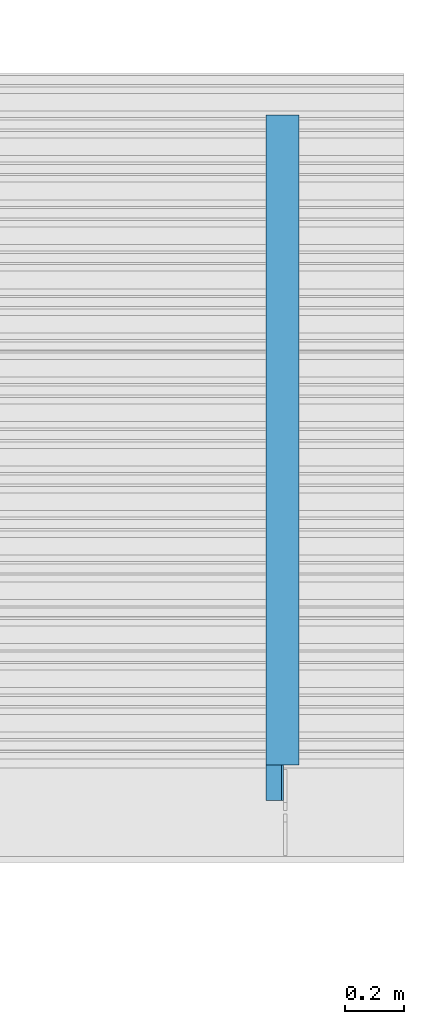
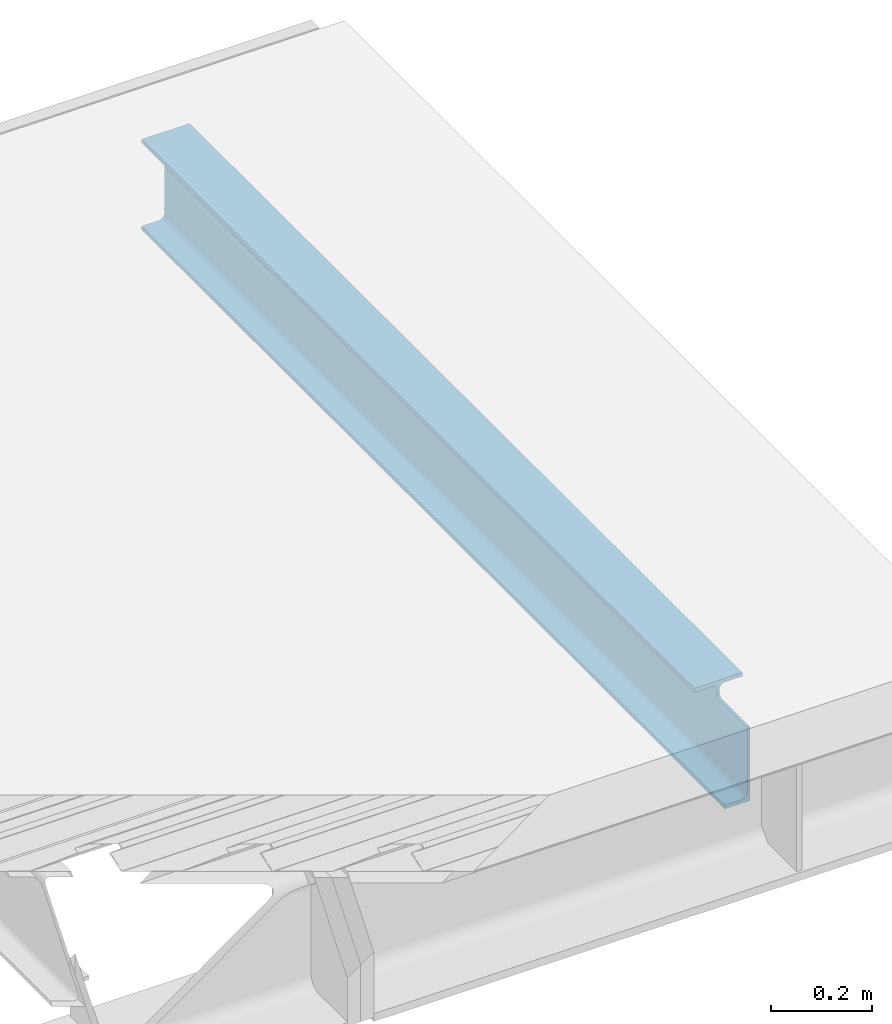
# One storey, part 12 of 12: 1 beam.
"""IFC2X3 building model written with IfcOpenShell, lengths in millimetres."""

from ifc_helpers import new_model, entity, si_unit, converted_unit, derived_unit, direction, frame, origin_with_axes, place, context, subcontext, project, spatial, faceted_brep, type_object, element, save


model = new_model("IFC2X3")

# Units and contexts
model_context = context("Model", 3, precision=0.01, world=frame((0.0, 4.29681676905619e-09, 0.0)), true_north=direction((4.01073788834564e-13, 1.0)))
plan_context = context("Plan", 3, precision=0.01, world=frame((0.0, 4.29681676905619e-09, 0.0)), true_north=direction((4.01073788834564e-13, 1.0)))
body_context = subcontext(model_context, "Body", "Model", "MODEL_VIEW")
ifc_project = project(units=[converted_unit("PLANEANGLEUNIT", "DEGREE", entity("IfcPositiveLengthMeasure", 0.0174532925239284), si_unit("PLANEANGLEUNIT", "RADIAN"), dimensions=[0, 0, 0, 0, 0, 0, 0]), si_unit("AREAUNIT", "SQUARE_METRE"), si_unit("LENGTHUNIT", "METRE", prefix="MILLI"), si_unit("MASSUNIT", "GRAM", prefix="KILO"), si_unit("POWERUNIT", "WATT"), si_unit("PRESSUREUNIT", "PASCAL"), si_unit("FORCEUNIT", "NEWTON", prefix="KILO"), si_unit("ELECTRICVOLTAGEUNIT", "VOLT"), si_unit("ELECTRICCURRENTUNIT", "AMPERE"), si_unit("THERMODYNAMICTEMPERATUREUNIT", "DEGREE_CELSIUS"), si_unit("TIMEUNIT", "SECOND"), si_unit("VOLUMEUNIT", "CUBIC_METRE"), derived_unit("LINEARVELOCITYUNIT", [(si_unit("LENGTHUNIT", "METRE"), 1), (si_unit("TIMEUNIT", "SECOND"), -1)]), derived_unit("VOLUMETRICFLOWRATEUNIT", [(si_unit("VOLUMEUNIT", "CUBIC_METRE"), 1), (si_unit("TIMEUNIT", "SECOND"), -1)]), derived_unit("THERMALTRANSMITTANCEUNIT", [(si_unit("POWERUNIT", "WATT"), 1), (si_unit("THERMODYNAMICTEMPERATUREUNIT", "KELVIN"), -1), (si_unit("AREAUNIT", "SQUARE_METRE"), -1)]), derived_unit("SOUNDPRESSUREUNIT", [(si_unit("PRESSUREUNIT", "PASCAL"), 1)])], contexts=[model_context, plan_context])

# Site, building, storey
site_placement = place(None, frame((0.0, -4.29681676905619e-09, 0.0), z_axis=(0.0, 0.0, 1.0), x_axis=(1.0, 0.0, 0.0)))
site = spatial("IfcSite", under=ifc_project, at=site_placement, Name="Gardermoen", CompositionType="ELEMENT")
building_placement = place(site_placement, frame((0.0, 4.29681676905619e-09, 0.0), z_axis=(0.0, 0.0, 1.0), x_axis=(1.0, 0.0, 0.0)))
building = spatial("IfcBuilding", under=site, at=building_placement, Name="TH", CompositionType="ELEMENT")
storey_placement = place(building_placement, origin_with_axes())
storey = spatial("IfcBuildingStorey", under=building, at=storey_placement, Name="D", CompositionType="ELEMENT", Elevation=0.0)

# Beam
beam_type = type_object("IfcBeamType", Name="IPE220", PredefinedType="NOTDEFINED")
beam_placement = place(storey_placement, frame((909999.999781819, 484999.995625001, 209930.0), z_axis=(0.0, 0.0, 1.0), x_axis=(0.0, 1.0, 0.0)))
element("IfcBeam", 1, at=beam_placement, inside=storey, type_object=beam_type, Name="STÅLBJELKE", ObjectType="IPE220", context=body_context, shape_type="Brep", body=[
    faceted_brep([(2357.65437500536, -55.0, -110.0), (2357.65437500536, 55.0, -110.0), (39.9999999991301, 55.0, -110.0), (39.9999999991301, -2.95000004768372, -110.0), (159.99999999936, -2.95000004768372, -110.0), (159.99999999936, -55.0, -110.0), (2357.65437500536, -55.0, -100.800000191), (159.99999999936, -55.0, -100.800000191), (2357.65437500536, -14.9500000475, -100.800000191), (159.99999999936, -14.9500000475, -100.800000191), (2357.65437500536, -12.6089161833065, -100.569423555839), (159.99999999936, -12.6089161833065, -100.569423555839), (2357.65437500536, -10.3577988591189, -99.8865545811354), (159.99999999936, -10.3577988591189, -99.8865545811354), (2357.65437500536, -8.28315725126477, -98.7776355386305), (159.99999999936, -8.28315725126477, -98.7776355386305), (2357.65437500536, -6.46471867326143, -97.2852815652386), (159.99999999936, -6.46471867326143, -97.2852815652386), (2357.65437500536, -4.97236469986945, -95.4668429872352), (159.99999999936, -4.97236469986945, -95.4668429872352), (2357.65437500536, -3.86344565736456, -93.3922013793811), (159.99999999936, -3.86344565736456, -93.3922013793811), (2357.65437500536, -3.18057668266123, -91.1410840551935), (159.99999999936, -3.18057668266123, -91.1410840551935), (2357.65437500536, -2.9500000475, -88.800000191), (159.99999999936, -2.96969830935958, -89.0), (39.9999999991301, -2.96969830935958, -89.0), (39.9999999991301, -2.9500000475, -88.800000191), (2357.65437500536, -2.9500000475, 88.800000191), (39.9999999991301, -2.9500000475, 70.0), (149.999999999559, -2.9500000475, 69.9999999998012), (151.564344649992, -2.9500000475, 70.1231165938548), (153.090169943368, -2.9500000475, 70.4894348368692), (154.539904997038, -2.9500000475, 71.0899347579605), (155.877852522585, -2.9500000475, 71.9098300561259), (157.071067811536, -2.9500000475, 72.9289321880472), (158.090169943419, -2.9500000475, 74.1221474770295), (158.910065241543, -2.9500000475, 75.4600950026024), (159.510565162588, -2.9500000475, 76.9098300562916), (159.876883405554, -2.9500000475, 78.4356553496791), (159.999999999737, -2.9500000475, 79.999999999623), (159.999999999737, -2.9500000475, 88.800000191), (2357.65437500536, -3.18057668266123, 91.1410840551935), (159.999999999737, -3.18057668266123, 91.1410840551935), (2357.65437500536, -3.86344565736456, 93.3922013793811), (159.999999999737, -3.86344565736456, 93.3922013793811), (2357.65437500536, -4.97236469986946, 95.4668429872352), (159.999999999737, -4.97236469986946, 95.4668429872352), (2357.65437500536, -6.46471867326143, 97.2852815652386), (159.999999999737, -6.46471867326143, 97.2852815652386), (2357.65437500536, -8.28315725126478, 98.7776355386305), (159.999999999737, -8.28315725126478, 98.7776355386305), (2357.65437500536, -10.3577988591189, 99.8865545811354), (159.999999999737, -10.3577988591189, 99.8865545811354), (2357.65437500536, -12.6089161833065, 100.569423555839), (159.999999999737, -12.6089161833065, 100.569423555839), (2357.65437500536, -14.9500000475, 100.800000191), (159.999999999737, -14.9500000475, 100.800000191), (2357.65437500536, -55.0, 100.800000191), (159.999999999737, -55.0, 100.800000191), (2357.65437500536, -55.0, 110.0), (159.999999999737, -55.0, 110.0), (2357.65437500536, 55.0, 110.0), (159.999999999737, 55.0, 110.0), (2357.65437500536, 55.0, 100.800000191), (159.999999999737, 55.0, 100.800000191), (2357.65437500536, 14.9500000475, 100.800000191), (159.999999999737, 14.9500000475, 100.800000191), (2357.65437500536, 12.6089161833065, 100.569423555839), (159.999999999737, 12.6089161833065, 100.569423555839), (2357.65437500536, 10.3577988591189, 99.8865545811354), (159.999999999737, 10.3577988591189, 99.8865545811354), (2357.65437500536, 8.28315725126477, 98.7776355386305), (159.999999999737, 8.28315725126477, 98.7776355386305), (2357.65437500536, 6.46471867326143, 97.2852815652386), (159.999999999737, 6.46471867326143, 97.2852815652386), (2357.65437500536, 4.97236469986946, 95.4668429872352), (159.999999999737, 4.97236469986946, 95.4668429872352), (2357.65437500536, 3.86344565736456, 93.3922013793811), (159.999999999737, 3.86344565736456, 93.3922013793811), (2357.65437500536, 3.18057668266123, 91.1410840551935), (159.999999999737, 3.18057668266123, 91.1410840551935), (2357.65437500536, 2.9500000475, 88.800000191), (159.999999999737, 2.9500000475, 88.800000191), (2357.65437500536, 2.9500000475, -88.800000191), (159.999999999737, 2.95000004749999, 79.999999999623), (159.876883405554, 2.95000004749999, 78.4356553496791), (159.510565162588, 2.95000004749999, 76.9098300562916), (158.910065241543, 2.95000004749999, 75.4600950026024), (158.090169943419, 2.95000004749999, 74.1221474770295), (157.071067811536, 2.95000004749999, 72.9289321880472), (155.877852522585, 2.95000004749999, 71.9098300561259), (154.539904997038, 2.95000004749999, 71.0899347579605), (153.090169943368, 2.95000004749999, 70.4894348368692), (151.564344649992, 2.95000004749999, 70.1231165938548), (149.999999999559, 2.95000004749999, 69.9999999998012), (39.9999999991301, 2.9500000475, 70.0), (39.9999999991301, 2.9500000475, -88.800000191), (2357.65437500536, 3.18057668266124, -91.1410840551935), (39.9999999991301, 3.18057668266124, -91.1410840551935), (2357.65437500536, 3.86344565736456, -93.3922013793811), (39.9999999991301, 3.86344565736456, -93.3922013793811), (2357.65437500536, 4.97236469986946, -95.4668429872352), (39.9999999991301, 4.97236469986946, -95.4668429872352), (2357.65437500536, 6.46471867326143, -97.2852815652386), (39.9999999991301, 6.46471867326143, -97.2852815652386), (2357.65437500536, 8.28315725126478, -98.7776355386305), (39.9999999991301, 8.28315725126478, -98.7776355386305), (2357.65437500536, 10.3577988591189, -99.8865545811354), (39.9999999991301, 10.3577988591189, -99.8865545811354), (2357.65437500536, 12.6089161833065, -100.569423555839), (39.9999999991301, 12.6089161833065, -100.569423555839), (2357.65437500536, 14.9500000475, -100.800000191), (39.9999999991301, 14.9500000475, -100.800000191), (2357.65437500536, 55.0, -100.800000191), (39.9999999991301, 55.0, -100.800000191), (159.99999999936, -2.95000004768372, -89.0), (39.9999999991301, -2.95000004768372, -89.0)], [[[0, 1, 2, 3, 4, 5]], [[6, 0, 5, 7]], [[8, 6, 7, 9]], [[10, 8, 9, 11]], [[12, 10, 11, 13]], [[14, 12, 13, 15]], [[16, 14, 15, 17]], [[18, 16, 17, 19]], [[20, 18, 19, 21]], [[22, 20, 21, 23]], [[24, 22, 23, 25, 26, 27]], [[28, 24, 27, 29, 30, 31, 32, 33, 34, 35, 36, 37, 38, 39, 40, 41]], [[42, 28, 41, 43]], [[44, 42, 43, 45]], [[46, 44, 45, 47]], [[48, 46, 47, 49]], [[50, 48, 49, 51]], [[52, 50, 51, 53]], [[54, 52, 53, 55]], [[56, 54, 55, 57]], [[58, 56, 57, 59]], [[60, 58, 59, 61]], [[62, 60, 61, 63]], [[64, 62, 63, 65]], [[66, 64, 65, 67]], [[68, 66, 67, 69]], [[70, 68, 69, 71]], [[72, 70, 71, 73]], [[74, 72, 73, 75]], [[76, 74, 75, 77]], [[78, 76, 77, 79]], [[80, 78, 79, 81]], [[82, 80, 81, 83]], [[84, 82, 83, 85, 86, 87, 88, 89, 90, 91, 92, 93, 94, 95, 96, 97]], [[98, 84, 97, 99]], [[100, 98, 99, 101]], [[102, 100, 101, 103]], [[104, 102, 103, 105]], [[106, 104, 105, 107]], [[108, 106, 107, 109]], [[110, 108, 109, 111]], [[112, 110, 111, 113]], [[114, 112, 113, 115]], [[1, 114, 115, 2]], [[30, 29, 96, 95]], [[95, 94, 31, 30]], [[94, 93, 32, 31]], [[93, 92, 33, 32]], [[92, 91, 34, 33]], [[91, 90, 35, 34]], [[90, 89, 36, 35]], [[89, 88, 37, 36]], [[88, 87, 38, 37]], [[87, 86, 39, 38]], [[86, 85, 40, 39]], [[85, 83, 81, 79, 77, 75, 73, 71, 69, 67, 65, 63, 61, 59, 57, 55, 53, 51, 49, 47, 45, 43, 41, 40]], [[116, 25, 23, 21, 19, 17, 15, 13, 11, 9, 7, 5, 4]], [[116, 117, 26, 25]], [[116, 4, 3, 117]], [[96, 29, 27, 26, 117, 3, 2, 115, 113, 111, 109, 107, 105, 103, 101, 99, 97]], [[6, 8, 10, 12, 14, 16, 18, 20, 22, 24, 28, 42, 44, 46, 48, 50, 52, 54, 56, 58, 60, 62, 64, 66, 68, 70, 72, 74, 76, 78, 80, 82, 84, 98, 100, 102, 104, 106, 108, 110, 112, 114, 1, 0]]], orient=[[False], [False], [False], [False], [False], [False], [False], [False], [False], [False], [False], [False], [False], [False], [False], [False], [False], [False], [False], [False], [False], [False], [False], [False], [False], [False], [False], [False], [False], [False], [False], [False], [False], [False], [False], [False], [False], [False], [False], [False], [False], [False], [False], [False], [False], [False], [False], [False], [False], [False], [False], [False], [False], [False], [False], [False], [False], [False], [False], [False], [False]]),
])

save(model, "model.ifc")
